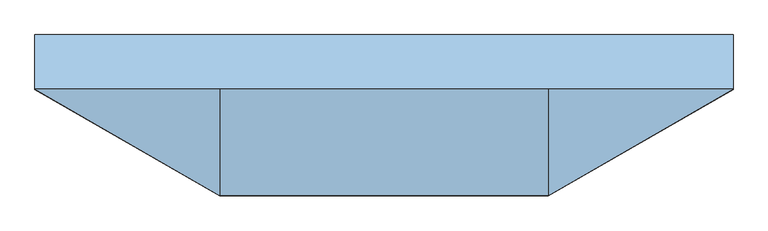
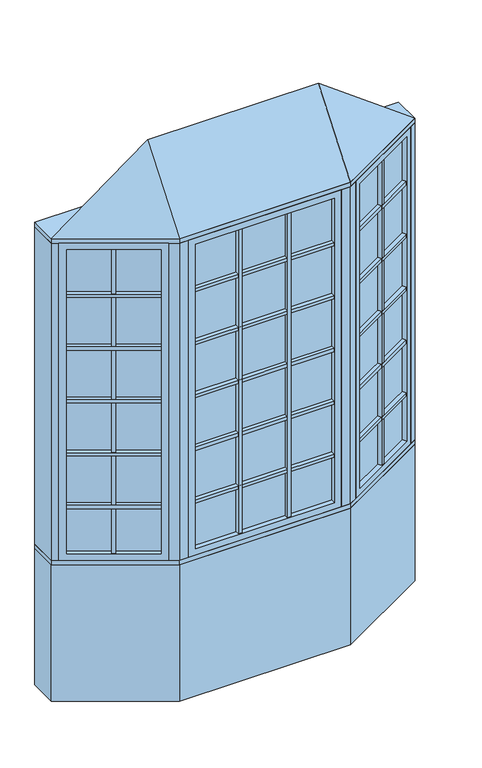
"""IFC4 building model written with IfcOpenShell, lengths in millimetres: window geometry, Pollard_Windows_Tudor Casement Bows and Bays : AML-BAY 30 AFR0618-08-500_GC."""

from ifc_helpers import new_model, si_unit, frame, origin, origin_with_axes, place, context, project, spatial, polyline, outline, extrude, faceted_brep, source, transform, mapped, element, save


def window_b4d974a7(model_context):
    return source(origin(), model_context, "Body", "SolidModel", [
        extrude(outline(polyline([(532.2305346, -327.3537343), (521.2305346, -308.3011754), (902.1135794, -88.3982469), (913.1135794, -107.4508058), (532.2305346, -327.3537343)])), frame((0.0, 0.0, 1690.998), z_axis=(0.0, 0.0, 1.0), x_axis=(1.0, 0.0, 0.0)), (0.0, 0.0, 1.0), 18.0),
        extrude(outline(polyline([(518.6905346, -303.9017664), (507.6905346, -284.8492075), (888.5735794, -64.946279), (899.5735794, -83.9988379), (518.6905346, -303.9017664)])), frame((0.0, 0.0, 1690.998), z_axis=(0.0, 0.0, 1.0), x_axis=(1.0, 0.0, 0.0)), (0.0, 0.0, 1.0), 18.0),
        extrude(outline(polyline([(532.2305346, -327.3537343), (521.2305346, -308.3011754), (902.1135794, -88.3982469), (913.1135794, -107.4508058), (532.2305346, -327.3537343)])), frame((0.0, 0.0, 1090.998), z_axis=(0.0, 0.0, 1.0), x_axis=(1.0, 0.0, 0.0)), (0.0, 0.0, 1.0), 18.0),
        extrude(outline(polyline([(518.6905346, -303.9017664), (507.6905346, -284.8492075), (888.5735794, -64.946279), (899.5735794, -83.9988379), (518.6905346, -303.9017664)])), frame((0.0, 0.0, 1090.998), z_axis=(0.0, 0.0, 1.0), x_axis=(1.0, 0.0, 0.0)), (0.0, 0.0, 1.0), 18.0),
        extrude(outline(polyline([(532.2305346, -327.3537343), (521.2305346, -308.3011754), (902.1135794, -88.3982469), (913.1135794, -107.4508058), (532.2305346, -327.3537343)])), frame((0.0, 0.0, 1390.998), z_axis=(0.0, 0.0, 1.0), x_axis=(1.0, 0.0, 0.0)), (0.0, 0.0, 1.0), 18.0),
        extrude(outline(polyline([(518.6905346, -303.9017664), (507.6905346, -284.8492075), (888.5735794, -64.946279), (899.5735794, -83.9988379), (518.6905346, -303.9017664)])), frame((0.0, 0.0, 1390.998), z_axis=(0.0, 0.0, 1.0), x_axis=(1.0, 0.0, 0.0)), (0.0, 0.0, 1.0), 18.0),
        extrude(outline(polyline([(532.2305346, -327.3537343), (521.2305346, -308.3011754), (902.1135794, -88.3982469), (913.1135794, -107.4508058), (532.2305346, -327.3537343)])), frame((0.0, 0.0, 1990.998), z_axis=(0.0, 0.0, 1.0), x_axis=(1.0, 0.0, 0.0)), (0.0, 0.0, 1.0), 18.0),
        extrude(outline(polyline([(518.6905346, -303.9017664), (507.6905346, -284.8492075), (888.5735794, -64.946279), (899.5735794, -83.9988379), (518.6905346, -303.9017664)])), frame((0.0, 0.0, 1990.998), z_axis=(0.0, 0.0, 1.0), x_axis=(1.0, 0.0, 0.0)), (0.0, 0.0, 1.0), 18.0),
        extrude(outline(polyline([(532.2305346, -327.3537343), (521.2305346, -308.3011754), (902.1135794, -88.3982469), (913.1135794, -107.4508058), (532.2305346, -327.3537343)])), frame((0.0, 0.0, 2290.998), z_axis=(0.0, 0.0, 1.0), x_axis=(1.0, 0.0, 0.0)), (0.0, 0.0, 1.0), 18.0),
        extrude(outline(polyline([(518.6905346, -303.9017664), (507.6905346, -284.8492075), (888.5735794, -64.946279), (899.5735794, -83.9988379), (518.6905346, -303.9017664)])), frame((0.0, 0.0, 2290.998), z_axis=(0.0, 0.0, 1.0), x_axis=(1.0, 0.0, 0.0)), (0.0, 0.0, 1.0), 18.0),
        extrude(outline(polyline([(719.4662856, -193.8497112), (730.4662856, -212.9022701), (714.8778284, -221.9022701), (703.8778284, -202.8497112), (719.4662856, -193.8497112)])), frame((0.0, 0.0, 835.8628), z_axis=(0.0, 0.0, 1.0), x_axis=(1.0, 0.0, 0.0)), (0.0, 0.0, 1.0), 1728.2704),
        extrude(outline(polyline([(716.9262856, -189.4503021), (701.3378284, -198.4503021), (690.3378284, -179.3977432), (705.9262856, -170.3977432), (716.9262856, -189.4503021)])), frame((0.0, 0.0, 835.8628), z_axis=(0.0, 0.0, 1.0), x_axis=(1.0, 0.0, 0.0)), (0.0, 0.0, 1.0), 1728.2704),
        extrude(outline(polyline([(913.112102, -82.0482469), (510.2320119, -314.6511754), (507.6920119, -310.2517664), (910.572102, -77.6488379), (913.112102, -82.0482469)])), frame((0.0, 0.0, 823.1628), z_axis=(0.0, 0.0, 1.0), x_axis=(1.0, 0.0, 0.0)), (0.0, 0.0, 1.0), 1753.6704),
        faceted_brep([(902.1135794, -88.3982469, 835.8628), (914.8135794, -110.3952922, 835.8628), (914.8135794, -110.3952922, 2564.1332), (902.1135794, -88.3982469, 2564.1332), (910.572102, -77.6488379, 823.1628), (913.112102, -82.0482469, 823.1628), (913.112102, -82.0482469, 2576.8332), (910.572102, -77.6488379, 2576.8332), (886.8735794, -62.0017926, 835.8628), (899.5735794, -83.9988379, 835.8628), (899.5735794, -83.9988379, 2564.1332), (886.8735794, -62.0017926, 2564.1332), (945.8734073, -92.4628922, 799.998), (917.9334073, -44.0693926, 799.998), (917.9334073, -44.0693926, 2599.998), (945.8734073, -92.4628922, 2599.998), (533.9305346, -330.2982207, 2564.1332), (521.2305346, -308.3011754, 2564.1332), (510.2320119, -314.6511754, 2576.8332), (507.6920119, -310.2517664, 2576.8332), (518.6905346, -303.9017664, 2564.1332), (505.9905346, -281.9047211, 2564.1332), (474.9307067, -299.8371211, 2599.998), (502.8707067, -348.2306207, 2599.998), (533.9305346, -330.2982207, 835.8628), (521.2305346, -308.3011754, 835.8628), (510.2320119, -314.6511754, 823.1628), (507.6920119, -310.2517664, 823.1628), (518.6905346, -303.9017664, 835.8628), (505.9905346, -281.9047211, 835.8628), (474.9307067, -299.8371211, 799.998), (502.8707067, -348.2306207, 799.998)], [[[0, 1, 2, 3]], [[4, 5, 6, 7]], [[8, 9, 10, 11]], [[12, 13, 14, 15]], [[3, 2, 16, 17]], [[7, 6, 18, 19]], [[11, 10, 20, 21]], [[15, 14, 22, 23]], [[17, 16, 24, 25]], [[19, 18, 26, 27]], [[21, 20, 28, 29]], [[23, 22, 30, 31]], [[25, 24, 1, 0]], [[5, 26, 18, 6], [3, 17, 25, 0]], [[27, 26, 5, 4]], [[7, 19, 27, 4], [9, 28, 20, 10]], [[29, 28, 9, 8]], [[13, 30, 22, 14], [11, 21, 29, 8]], [[31, 30, 13, 12]], [[15, 23, 31, 12], [1, 24, 16, 2]]]),
        extrude(outline(polyline([(140.8016788, -347.8306207), (140.8016788, -369.8306207), (122.8016788, -369.8306207), (122.8016788, -347.8306207), (140.8016788, -347.8306207)])), frame((0.0, 0.0, 835.8628), z_axis=(0.0, 0.0, 1.0), x_axis=(1.0, 0.0, 0.0)), (0.0, 0.0, 1.0), 1728.2704),
        extrude(outline(polyline([(140.8016788, -342.7506207), (122.8016788, -342.7506207), (122.8016788, -320.7506207), (140.8016788, -320.7506207), (140.8016788, -342.7506207)])), frame((0.0, 0.0, 835.8628), z_axis=(0.0, 0.0, 1.0), x_axis=(1.0, 0.0, 0.0)), (0.0, 0.0, 1.0), 1728.2704),
        extrude(outline(polyline([(-122.8016788, -347.8306207), (-122.8016788, -369.8306207), (-140.8016788, -369.8306207), (-140.8016788, -347.8306207), (-122.8016788, -347.8306207)])), frame((0.0, 0.0, 835.8628), z_axis=(0.0, 0.0, 1.0), x_axis=(1.0, 0.0, 0.0)), (0.0, 0.0, 1.0), 1728.2704),
        extrude(outline(polyline([(-122.8016788, -342.7506207), (-140.8016788, -342.7506207), (-140.8016788, -320.7506207), (-122.8016788, -320.7506207), (-122.8016788, -342.7506207)])), frame((0.0, 0.0, 835.8628), z_axis=(0.0, 0.0, 1.0), x_axis=(1.0, 0.0, 0.0)), (0.0, 0.0, 1.0), 1728.2704),
        extrude(outline(polyline([(-373.7046365, -369.8306207), (-373.7046365, -347.8306207), (373.7046365, -347.8306207), (373.7046365, -369.8306207), (-373.7046365, -369.8306207)])), frame((0.0, 0.0, 1090.998), z_axis=(0.0, 0.0, 1.0), x_axis=(1.0, 0.0, 0.0)), (0.0, 0.0, 1.0), 18.0),
        extrude(outline(polyline([(-373.7046365, -342.7506207), (-373.7046365, -320.7506207), (373.7046365, -320.7506207), (373.7046365, -342.7506207), (-373.7046365, -342.7506207)])), frame((0.0, 0.0, 1090.998), z_axis=(0.0, 0.0, 1.0), x_axis=(1.0, 0.0, 0.0)), (0.0, 0.0, 1.0), 18.0),
        extrude(outline(polyline([(-373.7046365, -369.8306207), (-373.7046365, -347.8306207), (373.7046365, -347.8306207), (373.7046365, -369.8306207), (-373.7046365, -369.8306207)])), frame((0.0, 0.0, 1390.998), z_axis=(0.0, 0.0, 1.0), x_axis=(1.0, 0.0, 0.0)), (0.0, 0.0, 1.0), 18.0),
        extrude(outline(polyline([(-373.7046365, -342.7506207), (-373.7046365, -320.7506207), (373.7046365, -320.7506207), (373.7046365, -342.7506207), (-373.7046365, -342.7506207)])), frame((0.0, 0.0, 1390.998), z_axis=(0.0, 0.0, 1.0), x_axis=(1.0, 0.0, 0.0)), (0.0, 0.0, 1.0), 18.0),
        extrude(outline(polyline([(-373.7046365, -369.8306207), (-373.7046365, -347.8306207), (373.7046365, -347.8306207), (373.7046365, -369.8306207), (-373.7046365, -369.8306207)])), frame((0.0, 0.0, 1690.998), z_axis=(0.0, 0.0, 1.0), x_axis=(1.0, 0.0, 0.0)), (0.0, 0.0, 1.0), 18.0),
        extrude(outline(polyline([(-373.7046365, -342.7506207), (-373.7046365, -320.7506207), (373.7046365, -320.7506207), (373.7046365, -342.7506207), (-373.7046365, -342.7506207)])), frame((0.0, 0.0, 1690.998), z_axis=(0.0, 0.0, 1.0), x_axis=(1.0, 0.0, 0.0)), (0.0, 0.0, 1.0), 18.0),
        extrude(outline(polyline([(-373.7046365, -369.8306207), (-373.7046365, -347.8306207), (373.7046365, -347.8306207), (373.7046365, -369.8306207), (-373.7046365, -369.8306207)])), frame((0.0, 0.0, 1990.998), z_axis=(0.0, 0.0, 1.0), x_axis=(1.0, 0.0, 0.0)), (0.0, 0.0, 1.0), 18.0),
        extrude(outline(polyline([(-373.7046365, -342.7506207), (-373.7046365, -320.7506207), (373.7046365, -320.7506207), (373.7046365, -342.7506207), (-373.7046365, -342.7506207)])), frame((0.0, 0.0, 1990.998), z_axis=(0.0, 0.0, 1.0), x_axis=(1.0, 0.0, 0.0)), (0.0, 0.0, 1.0), 18.0),
        extrude(outline(polyline([(-913.1135794, -107.4508058), (-902.1135794, -88.3982469), (-521.2305346, -308.3011754), (-532.2305346, -327.3537343), (-913.1135794, -107.4508058)])), frame((0.0, 0.0, 1090.998), z_axis=(0.0, 0.0, 1.0), x_axis=(1.0, 0.0, 0.0)), (0.0, 0.0, 1.0), 18.0),
        extrude(outline(polyline([(-899.5735794, -83.9988379), (-888.5735794, -64.946279), (-507.6905346, -284.8492075), (-518.6905346, -303.9017664), (-899.5735794, -83.9988379)])), frame((0.0, 0.0, 1090.998), z_axis=(0.0, 0.0, 1.0), x_axis=(1.0, 0.0, 0.0)), (0.0, 0.0, 1.0), 18.0),
        extrude(outline(polyline([(-913.1135794, -107.4508058), (-902.1135794, -88.3982469), (-521.2305346, -308.3011754), (-532.2305346, -327.3537343), (-913.1135794, -107.4508058)])), frame((0.0, 0.0, 1390.998), z_axis=(0.0, 0.0, 1.0), x_axis=(1.0, 0.0, 0.0)), (0.0, 0.0, 1.0), 18.0),
        extrude(outline(polyline([(-899.5735794, -83.9988379), (-888.5735794, -64.946279), (-507.6905346, -284.8492075), (-518.6905346, -303.9017664), (-899.5735794, -83.9988379)])), frame((0.0, 0.0, 1390.998), z_axis=(0.0, 0.0, 1.0), x_axis=(1.0, 0.0, 0.0)), (0.0, 0.0, 1.0), 18.0),
        extrude(outline(polyline([(-913.1135794, -107.4508058), (-902.1135794, -88.3982469), (-521.2305346, -308.3011754), (-532.2305346, -327.3537343), (-913.1135794, -107.4508058)])), frame((0.0, 0.0, 1690.998), z_axis=(0.0, 0.0, 1.0), x_axis=(1.0, 0.0, 0.0)), (0.0, 0.0, 1.0), 18.0),
        extrude(outline(polyline([(-899.5735794, -83.9988379), (-888.5735794, -64.946279), (-507.6905346, -284.8492075), (-518.6905346, -303.9017664), (-899.5735794, -83.9988379)])), frame((0.0, 0.0, 1690.998), z_axis=(0.0, 0.0, 1.0), x_axis=(1.0, 0.0, 0.0)), (0.0, 0.0, 1.0), 18.0),
        extrude(outline(polyline([(-913.1135794, -107.4508058), (-902.1135794, -88.3982469), (-521.2305346, -308.3011754), (-532.2305346, -327.3537343), (-913.1135794, -107.4508058)])), frame((0.0, 0.0, 1990.998), z_axis=(0.0, 0.0, 1.0), x_axis=(1.0, 0.0, 0.0)), (0.0, 0.0, 1.0), 18.0),
        extrude(outline(polyline([(-899.5735794, -83.9988379), (-888.5735794, -64.946279), (-507.6905346, -284.8492075), (-518.6905346, -303.9017664), (-899.5735794, -83.9988379)])), frame((0.0, 0.0, 1990.998), z_axis=(0.0, 0.0, 1.0), x_axis=(1.0, 0.0, 0.0)), (0.0, 0.0, 1.0), 18.0),
        extrude(outline(polyline([(-913.1135794, -107.4508058), (-902.1135794, -88.3982469), (-521.2305346, -308.3011754), (-532.2305346, -327.3537343), (-913.1135794, -107.4508058)])), frame((0.0, 0.0, 2290.998), z_axis=(0.0, 0.0, 1.0), x_axis=(1.0, 0.0, 0.0)), (0.0, 0.0, 1.0), 18.0),
        extrude(outline(polyline([(-899.5735794, -83.9988379), (-888.5735794, -64.946279), (-507.6905346, -284.8492075), (-518.6905346, -303.9017664), (-899.5735794, -83.9988379)])), frame((0.0, 0.0, 2290.998), z_axis=(0.0, 0.0, 1.0), x_axis=(1.0, 0.0, 0.0)), (0.0, 0.0, 1.0), 18.0),
        extrude(outline(polyline([(-373.7046365, -369.8306207), (-373.7046365, -347.8306207), (373.7046365, -347.8306207), (373.7046365, -369.8306207), (-373.7046365, -369.8306207)])), frame((0.0, 0.0, 2290.998), z_axis=(0.0, 0.0, 1.0), x_axis=(1.0, 0.0, 0.0)), (0.0, 0.0, 1.0), 18.0),
        extrude(outline(polyline([(-373.7046365, -342.7506207), (-373.7046365, -320.7506207), (373.7046365, -320.7506207), (373.7046365, -342.7506207), (-373.7046365, -342.7506207)])), frame((0.0, 0.0, 2290.998), z_axis=(0.0, 0.0, 1.0), x_axis=(1.0, 0.0, 0.0)), (0.0, 0.0, 1.0), 18.0),
        extrude(outline(polyline([(-703.8778284, -202.8497112), (-714.8778284, -221.9022701), (-730.4662856, -212.9022701), (-719.4662856, -193.8497112), (-703.8778284, -202.8497112)])), frame((0.0, 0.0, 835.8628), z_axis=(0.0, 0.0, 1.0), x_axis=(1.0, 0.0, 0.0)), (0.0, 0.0, 1.0), 1728.2704),
        extrude(outline(polyline([(-701.3378284, -198.4503021), (-716.9262856, -189.4503021), (-705.9262856, -170.3977432), (-690.3378284, -179.3977432), (-701.3378284, -198.4503021)])), frame((0.0, 0.0, 835.8628), z_axis=(0.0, 0.0, 1.0), x_axis=(1.0, 0.0, 0.0)), (0.0, 0.0, 1.0), 1728.2704),
        extrude(outline(polyline([(-510.2320119, -314.6511754), (-913.112102, -82.0482469), (-910.572102, -77.6488379), (-507.6920119, -310.2517664), (-510.2320119, -314.6511754)])), frame((0.0, 0.0, 823.1628), z_axis=(0.0, 0.0, 1.0), x_axis=(1.0, 0.0, 0.0)), (0.0, 0.0, 1.0), 1753.6704),
        faceted_brep([(-518.6905346, -303.9017664, 2564.1332), (-505.9905346, -281.9047211, 2564.1332), (-505.9905346, -281.9047211, 835.8628), (-518.6905346, -303.9017664, 835.8628), (-510.2320119, -314.6511754, 2576.8332), (-507.6920119, -310.2517664, 2576.8332), (-507.6920119, -310.2517664, 823.1628), (-510.2320119, -314.6511754, 823.1628), (-533.9305346, -330.2982207, 2564.1332), (-521.2305346, -308.3011754, 2564.1332), (-521.2305346, -308.3011754, 835.8628), (-533.9305346, -330.2982207, 835.8628), (-474.9307067, -299.8371211, 2599.998), (-502.8707067, -348.2306207, 2599.998), (-502.8707067, -348.2306207, 799.998), (-474.9307067, -299.8371211, 799.998), (-886.8735794, -62.0017926, 835.8628), (-899.5735794, -83.9988379, 835.8628), (-910.572102, -77.6488379, 823.1628), (-913.112102, -82.0482469, 823.1628), (-902.1135794, -88.3982469, 835.8628), (-914.8135794, -110.3952922, 835.8628), (-945.8734073, -92.4628922, 799.998), (-917.9334073, -44.0693926, 799.998), (-886.8735794, -62.0017926, 2564.1332), (-899.5735794, -83.9988379, 2564.1332), (-910.572102, -77.6488379, 2576.8332), (-913.112102, -82.0482469, 2576.8332), (-902.1135794, -88.3982469, 2564.1332), (-914.8135794, -110.3952922, 2564.1332), (-945.8734073, -92.4628922, 2599.998), (-917.9334073, -44.0693926, 2599.998)], [[[0, 1, 2, 3]], [[4, 5, 6, 7]], [[8, 9, 10, 11]], [[12, 13, 14, 15]], [[3, 2, 16, 17]], [[7, 6, 18, 19]], [[11, 10, 20, 21]], [[15, 14, 22, 23]], [[17, 16, 24, 25]], [[19, 18, 26, 27]], [[21, 20, 28, 29]], [[23, 22, 30, 31]], [[15, 23, 31, 12], [1, 24, 16, 2]], [[25, 24, 1, 0]], [[5, 26, 18, 6], [3, 17, 25, 0]], [[27, 26, 5, 4]], [[7, 19, 27, 4], [9, 28, 20, 10]], [[29, 28, 9, 8]], [[13, 30, 22, 14], [11, 21, 29, 8]], [[31, 30, 13, 12]]]),
        extrude(outline(polyline([(386.4046365, -347.8306207), (-386.4046365, -347.8306207), (-386.4046365, -342.7506207), (386.4046365, -342.7506207), (386.4046365, -347.8306207)])), frame((0.0, 0.0, 823.1628), z_axis=(0.0, 0.0, 1.0), x_axis=(1.0, 0.0, 0.0)), (0.0, 0.0, 1.0), 1753.6704),
        faceted_brep([(373.7046365, -347.8306207, 835.8628), (373.7046365, -373.2306207, 835.8628), (373.7046365, -373.2306207, 2564.1332), (373.7046365, -347.8306207, 2564.1332), (386.4046365, -342.7506207, 823.1628), (386.4046365, -347.8306207, 823.1628), (386.4046365, -347.8306207, 2576.8332), (386.4046365, -342.7506207, 2576.8332), (373.7046365, -317.3506207, 835.8628), (373.7046365, -342.7506207, 835.8628), (373.7046365, -342.7506207, 2564.1332), (373.7046365, -317.3506207, 2564.1332), (409.5694365, -373.2306207, 799.998), (409.5694365, -317.3506207, 799.998), (409.5694365, -317.3506207, 2599.998), (409.5694365, -373.2306207, 2599.998), (-373.7046365, -373.2306207, 2564.1332), (-373.7046365, -347.8306207, 2564.1332), (-386.4046365, -347.8306207, 2576.8332), (-386.4046365, -342.7506207, 2576.8332), (-373.7046365, -342.7506207, 2564.1332), (-373.7046365, -317.3506207, 2564.1332), (-409.5694365, -317.3506207, 2599.998), (-409.5694365, -373.2306207, 2599.998), (-373.7046365, -373.2306207, 835.8628), (-373.7046365, -347.8306207, 835.8628), (-386.4046365, -347.8306207, 823.1628), (-386.4046365, -342.7506207, 823.1628), (-373.7046365, -342.7506207, 835.8628), (-373.7046365, -317.3506207, 835.8628), (-409.5694365, -317.3506207, 799.998), (-409.5694365, -373.2306207, 799.998)], [[[0, 1, 2, 3]], [[4, 5, 6, 7]], [[8, 9, 10, 11]], [[12, 13, 14, 15]], [[3, 2, 16, 17]], [[7, 6, 18, 19]], [[11, 10, 20, 21]], [[15, 14, 22, 23]], [[17, 16, 24, 25]], [[19, 18, 26, 27]], [[21, 20, 28, 29]], [[23, 22, 30, 31]], [[15, 23, 31, 12], [1, 24, 16, 2]], [[25, 24, 1, 0]], [[5, 26, 18, 6], [3, 17, 25, 0]], [[27, 26, 5, 4]], [[7, 19, 27, 4], [9, 28, 20, 10]], [[29, 28, 9, 8]], [[13, 30, 22, 14], [11, 21, 29, 8]], [[31, 30, 13, 12]]]),
        faceted_brep([(976.5, -74.7806207, 2625.398), (459.5694365, -373.2306207, 2625.398), (-459.5694365, -373.2306207, 2625.398), (-976.5, -74.7806207, 2625.398), (-459.5694365, -74.7806207, 3006.398), (459.5694365, -74.7806207, 3006.398)], [[[0, 1, 2, 3]], [[3, 2, 4]], [[2, 1, 5, 4]], [[1, 0, 5]], [[0, 3, 4, 5]]]),
        extrude(outline(polyline([(-976.5, 77.6193793), (976.5, 77.6193793), (976.5, -74.7806207), (459.5694365, -373.2306207), (-459.5694365, -373.2306207), (-976.5, -74.7806207), (-976.5, 77.6193793)])), frame((0.0, 0.0, 2599.998), z_axis=(0.0, 0.0, 1.0), x_axis=(1.0, 0.0, 0.0)), (0.0, 0.0, 1.0), 25.4),
        extrude(outline(polyline([(-976.5, -74.7806207), (-976.5, 77.6193793), (-935.6645431, 77.6193793), (-935.6645431, -74.7806207), (-945.8734073, -92.4628922), (-976.5, -74.7806207)])), frame((0.0, 0.0, 799.998), z_axis=(0.0, 0.0, 1.0), x_axis=(1.0, 0.0, 0.0)), (0.0, 0.0, 1.0), 1800.0),
        extrude(outline(polyline([(976.5, 77.6193793), (976.5, -74.7806207), (945.8734073, -92.4628922), (935.6645431, -74.7806207), (935.6645431, 77.6193793), (976.5, 77.6193793)])), frame((0.0, 0.0, 799.998), z_axis=(0.0, 0.0, 1.0), x_axis=(1.0, 0.0, 0.0)), (0.0, 0.0, 1.0), 1800.0),
        extrude(outline(polyline([(459.5694365, -373.2306207), (409.5694365, -373.2306207), (409.5694365, -323.2306207), (446.1719769, -323.2306207), (477.8707067, -304.9293505), (502.8707067, -348.2306207), (459.5694365, -373.2306207)])), frame((0.0, 0.0, 799.998), z_axis=(0.0, 0.0, 1.0), x_axis=(1.0, 0.0, 0.0)), (0.0, 0.0, 1.0), 1800.0),
        extrude(outline(polyline([(-459.5694365, -373.2306207), (-502.8707067, -348.2306207), (-477.8707067, -304.9293505), (-446.1719769, -323.2306207), (-409.5694365, -323.2306207), (-409.5694365, -373.2306207), (-459.5694365, -373.2306207)])), frame((0.0, 0.0, 799.998), z_axis=(0.0, 0.0, 1.0), x_axis=(1.0, 0.0, 0.0)), (0.0, 0.0, 1.0), 1800.0),
        extrude(outline(polyline([(-459.5694365, -373.2306207), (-976.5, -74.7806207), (-976.5, 77.6193793), (-935.6645431, 77.6193793), (-418.7339796, -220.8306207), (418.7339796, -220.8306207), (935.6645431, 77.6193793), (976.5, 77.6193793), (976.5, -74.7806207), (459.5694365, -373.2306207), (-459.5694365, -373.2306207)])), frame((0.0, 0.0, 774.598), z_axis=(0.0, 0.0, 1.0), x_axis=(1.0, 0.0, 0.0)), (0.0, 0.0, 1.0), 25.4),
        extrude(outline(polyline([(-976.5, -74.7806207), (-976.5, 77.6193793), (-935.6645431, 77.6193793), (-418.7339796, -220.8306207), (418.7339796, -220.8306207), (935.6645431, 77.6193793), (976.5, 77.6193793), (976.5, -74.7806207), (459.5694365, -373.2306207), (-459.5694365, -373.2306207), (-976.5, -74.7806207)])), origin_with_axes(), (0.0, 0.0, 1.0), 774.598),
    ])


if __name__ == "__main__":
    model = new_model("IFC4")
    model_context = context("Model", 3, world=origin())
    ifc_project = project(units=[si_unit("LENGTHUNIT", "METRE", prefix="MILLI")], contexts=[model_context])
    site = spatial("IfcSite", under=ifc_project)
    building = spatial("IfcBuilding", under=site)
    placement = place(None, origin())
    window_shape = window_b4d974a7(model_context)
    element("IfcWindow", 1, ObjectType="Pollard_Windows_Tudor Casement Bows and Bays : AML-BAY 30 AFR0618-08-500_GC", at=placement, inside=building, context=model_context, shape_type="MappedRepresentation", body=[
        mapped(window_shape, transform((0.0, 0.0, 0.0), x_axis=(1.0, 0.0, 0.0), y_axis=(0.0, 1.0, 0.0), z_axis=(0.0, 0.0, 1.0))),
    ])
    save(model, "model.ifc")
